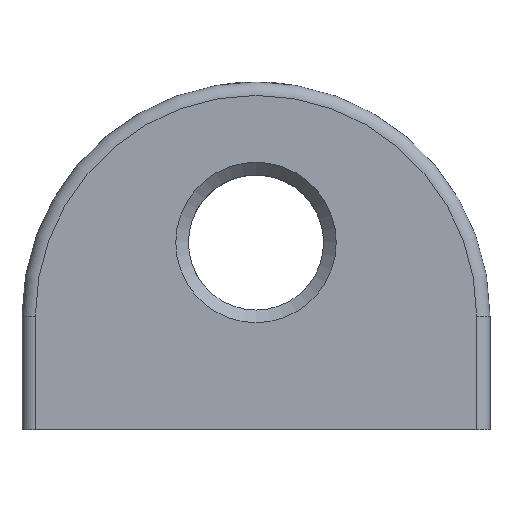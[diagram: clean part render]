
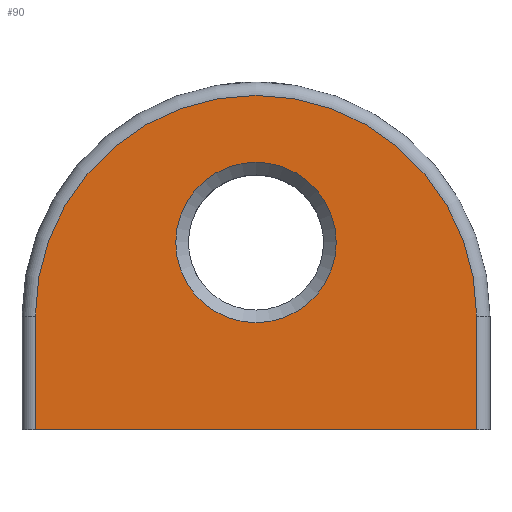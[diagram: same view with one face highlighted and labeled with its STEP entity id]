
A CAD part, top view. The second image highlights one B-rep face of the part: STEP entity #90.
In plain terms, the highlighted planar face has unit normal (0, 0, 1).
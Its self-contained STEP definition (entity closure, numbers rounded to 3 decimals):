
#90 = ADVANCED_FACE( '', ( #153, #154 ), #155, .F. );
#153 = FACE_BOUND( '', #258, .T. );
#154 = FACE_OUTER_BOUND( '', #259, .T. );
#155 = PLANE( '', #260 );
#258 = EDGE_LOOP( '', ( #428 ) );
#259 = EDGE_LOOP( '', ( #429, #430, #431, #432 ) );
#260 = AXIS2_PLACEMENT_3D( '', #433, #434, #435 );
#428 = ORIENTED_EDGE( '', *, *, #653, .T. );
#429 = ORIENTED_EDGE( '', *, *, #652, .F. );
#430 = ORIENTED_EDGE( '', *, *, #654, .F. );
#431 = ORIENTED_EDGE( '', *, *, #655, .T. );
#432 = ORIENTED_EDGE( '', *, *, #656, .T. );
#433 = CARTESIAN_POINT( '', ( -16.5, 8.5, 6. ) );
#434 = DIRECTION( '', ( 0., 0., -1. ) );
#435 = DIRECTION( '', ( -1., 0., 0. ) );
#652 = EDGE_CURVE( '', #759, #757, #761, .T. );
#653 = EDGE_CURVE( '', #762, #762, #763, .T. );
#654 = EDGE_CURVE( '', #764, #759, #765, .T. );
#655 = EDGE_CURVE( '', #764, #766, #767, .T. );
#656 = EDGE_CURVE( '', #766, #757, #768, .T. );
#757 = VERTEX_POINT( '', #969 );
#759 = VERTEX_POINT( '', #971 );
#761 = LINE( '', #973, #974 );
#762 = VERTEX_POINT( '', #975 );
#763 = CIRCLE( '', #976, 6. );
#764 = VERTEX_POINT( '', #977 );
#765 = CIRCLE( '', #978, 16.5 );
#766 = VERTEX_POINT( '', #979 );
#767 = LINE( '', #980, #981 );
#768 = LINE( '', #982, #983 );
#969 = CARTESIAN_POINT( '', ( 16.5, 0., 6. ) );
#971 = CARTESIAN_POINT( '', ( 16.5, 8.5, 6. ) );
#973 = CARTESIAN_POINT( '', ( 16.5, 8.5, 6. ) );
#974 = VECTOR( '', #1194, 1000. );
#975 = CARTESIAN_POINT( '', ( -6., 14., 6. ) );
#976 = AXIS2_PLACEMENT_3D( '', #1195, #1196, #1197 );
#977 = CARTESIAN_POINT( '', ( -16.5, 8.5, 6. ) );
#978 = AXIS2_PLACEMENT_3D( '', #1198, #1199, #1200 );
#979 = CARTESIAN_POINT( '', ( -16.5, 0., 6. ) );
#980 = CARTESIAN_POINT( '', ( -16.5, 8.5, 6. ) );
#981 = VECTOR( '', #1201, 1000. );
#982 = CARTESIAN_POINT( '', ( -16.5, 0., 6. ) );
#983 = VECTOR( '', #1202, 1000. );
#1194 = DIRECTION( '', ( 0., -1., 0. ) );
#1195 = CARTESIAN_POINT( '', ( 0., 14., 6. ) );
#1196 = DIRECTION( '', ( 0., 0., -1. ) );
#1197 = DIRECTION( '', ( -1., 0., 0. ) );
#1198 = CARTESIAN_POINT( '', ( 0., 8.5, 6. ) );
#1199 = DIRECTION( '', ( 0., 0., -1. ) );
#1200 = DIRECTION( '', ( -1., 0., 0. ) );
#1201 = DIRECTION( '', ( 0., -1., 0. ) );
#1202 = DIRECTION( '', ( 1., 0., 0. ) );
